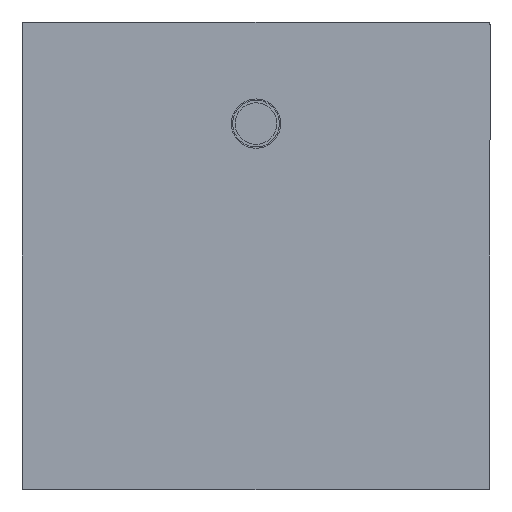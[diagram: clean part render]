
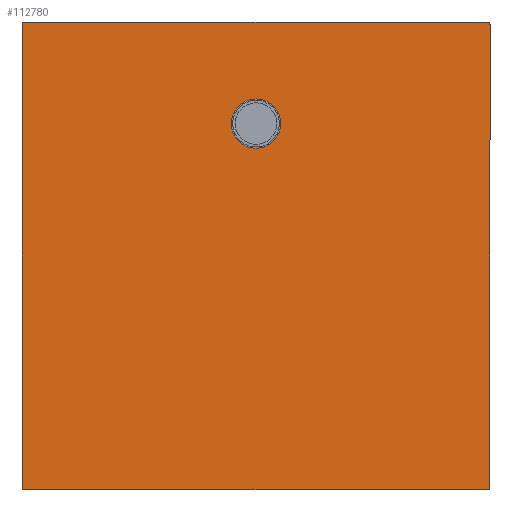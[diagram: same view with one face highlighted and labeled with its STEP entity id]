
A CAD part, front view. The second image highlights one B-rep face of the part: STEP entity #112780.
In plain terms, the highlighted planar face has unit normal (0, -1, 0).
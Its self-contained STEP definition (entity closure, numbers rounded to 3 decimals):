
#1012 = CARTESIAN_POINT ( 'NONE',  ( -450.698, -40., 195. ) ) ;
#1080 = ORIENTED_EDGE ( 'NONE', *, *, #11286, .F. ) ;
#3288 = CARTESIAN_POINT ( 'NONE',  ( 445.699, -40., -705.698 ) ) ;
#11040 = LINE ( 'NONE', #146233, #26169 ) ;
#11286 = EDGE_CURVE ( 'NONE', #176914, #33198, #155199, .T. ) ;
#12316 = CARTESIAN_POINT ( 'NONE',  ( -445.699, -40., 195.698 ) ) ;
#12525 = ORIENTED_EDGE ( 'NONE', *, *, #23596, .F. ) ;
#13889 = CARTESIAN_POINT ( 'NONE',  ( -448.628, -40., 195.698 ) ) ;
#14643 = CARTESIAN_POINT ( 'NONE',  ( -445.699, -40., -705.698 ) ) ;
#15200 = EDGE_LOOP ( 'NONE', ( #1080, #173535, #12525, #26302, #70656, #127754, #112002, #117499 ) ) ;
#16607 = CARTESIAN_POINT ( 'NONE',  ( -445.699, -40., 195.698 ) ) ;
#16988 = CARTESIAN_POINT ( 'NONE',  ( -445.699, -40., -705.698 ) ) ;
#19060 = DIRECTION ( 'NONE',  ( 1., 0., 0. ) ) ;
#21986 = DIRECTION ( 'NONE',  ( -1., 0., 0. ) ) ;
#22167 = DIRECTION ( 'NONE',  ( 0., 1., 0. ) ) ;
#23596 = EDGE_CURVE ( 'NONE', #109248, #108518, #11040, .T. ) ;
#24368 = EDGE_CURVE ( 'NONE', #35044, #35044, #162388, .T. ) ;
#26169 = VECTOR ( 'NONE', #21986, 1000. ) ;
#26302 = ORIENTED_EDGE ( 'NONE', *, *, #81879, .F. ) ;
#28629 = CARTESIAN_POINT ( 'NONE',  ( -450.698, -40., -700.699 ) ) ;
#28822 =( BOUNDED_CURVE ( )  B_SPLINE_CURVE ( 3, ( #31495, #138525, #99475, #16988 ),
 .UNSPECIFIED., .F., .T. ) 
 B_SPLINE_CURVE_WITH_KNOTS ( ( 4, 4 ),
 ( 2.356, 3.927 ),
 .UNSPECIFIED. ) 
 CURVE ( )  GEOMETRIC_REPRESENTATION_ITEM ( )  RATIONAL_B_SPLINE_CURVE ( ( 1., 0.805, 0.805, 1. ) ) 
 REPRESENTATION_ITEM ( '' )  );
#31495 = CARTESIAN_POINT ( 'NONE',  ( -450.698, -40., -700.699 ) ) ;
#33198 = VERTEX_POINT ( 'NONE', #175120 ) ;
#34095 =( BOUNDED_CURVE ( )  B_SPLINE_CURVE ( 3, ( #37797, #119409, #105794, #107566 ),
 .UNSPECIFIED., .F., .F. ) 
 B_SPLINE_CURVE_WITH_KNOTS ( ( 4, 4 ),
 ( 2.356, 3.927 ),
 .UNSPECIFIED. ) 
 CURVE ( )  GEOMETRIC_REPRESENTATION_ITEM ( )  RATIONAL_B_SPLINE_CURVE ( ( 1., 0.805, 0.805, 1. ) ) 
 REPRESENTATION_ITEM ( '' )  );
#35044 = VERTEX_POINT ( 'NONE', #105719 ) ;
#36131 = PLANE ( 'NONE',  #166199 ) ;
#37797 = CARTESIAN_POINT ( 'NONE',  ( 445.699, -40., 195.698 ) ) ;
#44487 = CARTESIAN_POINT ( 'NONE',  ( -450., -40., 195.698 ) ) ;
#45521 = VERTEX_POINT ( 'NONE', #159063 ) ;
#54076 = LINE ( 'NONE', #149326, #150953 ) ;
#58318 = CARTESIAN_POINT ( 'NONE',  ( -450.698, -40., 193.628 ) ) ;
#63000 = CARTESIAN_POINT ( 'NONE',  ( 450.698, -40., -700.699 ) ) ;
#66204 = EDGE_LOOP ( 'NONE', ( #141250 ) ) ;
#66872 = DIRECTION ( 'NONE',  ( 0., 1., 0. ) ) ;
#68334 = CARTESIAN_POINT ( 'NONE',  ( 448.628, -40., -705.698 ) ) ;
#70656 = ORIENTED_EDGE ( 'NONE', *, *, #95020, .T. ) ;
#74725 = VECTOR ( 'NONE', #19060, 1000. ) ;
#77502 = DIRECTION ( 'NONE',  ( 0., 0., 1. ) ) ;
#77850 = DIRECTION ( 'NONE',  ( 0., 0., 1. ) ) ;
#81879 = EDGE_CURVE ( 'NONE', #98362, #109248, #144271, .T. ) ;
#83054 = DIRECTION ( 'NONE',  ( 0., 0., 1. ) ) ;
#84468 = DIRECTION ( 'NONE',  ( 0., 0., 1. ) ) ;
#90559 = EDGE_CURVE ( 'NONE', #45521, #104293, #34095, .T. ) ;
#94064 = FACE_OUTER_BOUND ( 'NONE', #15200, .T. ) ;
#95000 = EDGE_CURVE ( 'NONE', #117533, #33198, #114034, .T. ) ;
#95020 = EDGE_CURVE ( 'NONE', #98362, #104293, #54076, .T. ) ;
#98362 = VERTEX_POINT ( 'NONE', #63000 ) ;
#99475 = CARTESIAN_POINT ( 'NONE',  ( -448.628, -40., -705.698 ) ) ;
#104293 = VERTEX_POINT ( 'NONE', #166670 ) ;
#105719 = CARTESIAN_POINT ( 'NONE',  ( 0., -40., 47.5 ) ) ;
#105794 = CARTESIAN_POINT ( 'NONE',  ( 450.698, -40., 193.628 ) ) ;
#107566 = CARTESIAN_POINT ( 'NONE',  ( 450.698, -40., 190.699 ) ) ;
#107671 = CARTESIAN_POINT ( 'NONE',  ( -450., -40., 195. ) ) ;
#108518 = VERTEX_POINT ( 'NONE', #14643 ) ;
#109126 = CARTESIAN_POINT ( 'NONE',  ( 450.698, -40., -703.628 ) ) ;
#109248 = VERTEX_POINT ( 'NONE', #3288 ) ;
#112002 = ORIENTED_EDGE ( 'NONE', *, *, #169771, .F. ) ;
#112780 = ADVANCED_FACE ( 'NONE', ( #119512, #94064 ), #36131, .F. ) ;
#114034 =( BOUNDED_CURVE ( )  B_SPLINE_CURVE ( 3, ( #16607, #13889, #58318, #125413 ),
 .UNSPECIFIED., .F., .T. ) 
 B_SPLINE_CURVE_WITH_KNOTS ( ( 4, 4 ),
 ( 2.356, 3.927 ),
 .UNSPECIFIED. ) 
 CURVE ( )  GEOMETRIC_REPRESENTATION_ITEM ( )  RATIONAL_B_SPLINE_CURVE ( ( 1., 0.805, 0.805, 1. ) ) 
 REPRESENTATION_ITEM ( '' )  );
#117499 = ORIENTED_EDGE ( 'NONE', *, *, #95000, .T. ) ;
#117533 = VERTEX_POINT ( 'NONE', #12316 ) ;
#119409 = CARTESIAN_POINT ( 'NONE',  ( 448.628, -40., 195.698 ) ) ;
#119512 = FACE_BOUND ( 'NONE', #66204, .T. ) ;
#120050 = CARTESIAN_POINT ( 'NONE',  ( 0., -40., 0. ) ) ;
#125413 = CARTESIAN_POINT ( 'NONE',  ( -450.698, -40., 190.699 ) ) ;
#127754 = ORIENTED_EDGE ( 'NONE', *, *, #90559, .F. ) ;
#138525 = CARTESIAN_POINT ( 'NONE',  ( -450.698, -40., -703.628 ) ) ;
#141250 = ORIENTED_EDGE ( 'NONE', *, *, #24368, .T. ) ;
#144271 =( BOUNDED_CURVE ( )  B_SPLINE_CURVE ( 3, ( #178089, #109126, #68334, #178964 ),
 .UNSPECIFIED., .F., .T. ) 
 B_SPLINE_CURVE_WITH_KNOTS ( ( 4, 4 ),
 ( 2.356, 3.927 ),
 .UNSPECIFIED. ) 
 CURVE ( )  GEOMETRIC_REPRESENTATION_ITEM ( )  RATIONAL_B_SPLINE_CURVE ( ( 1., 0.805, 0.805, 1. ) ) 
 REPRESENTATION_ITEM ( '' )  );
#144783 = VECTOR ( 'NONE', #84468, 1000. ) ;
#146233 = CARTESIAN_POINT ( 'NONE',  ( -450., -40., -705.698 ) ) ;
#149326 = CARTESIAN_POINT ( 'NONE',  ( 450.698, -40., 195. ) ) ;
#150953 = VECTOR ( 'NONE', #83054, 1000. ) ;
#155128 = LINE ( 'NONE', #44487, #74725 ) ;
#155199 = LINE ( 'NONE', #1012, #144783 ) ;
#159063 = CARTESIAN_POINT ( 'NONE',  ( 445.699, -40., 195.698 ) ) ;
#162256 = AXIS2_PLACEMENT_3D ( 'NONE', #120050, #22167, #77502 ) ;
#162388 = CIRCLE ( 'NONE', #162256, 47.5 ) ;
#163856 = EDGE_CURVE ( 'NONE', #176914, #108518, #28822, .T. ) ;
#166199 = AXIS2_PLACEMENT_3D ( 'NONE', #107671, #66872, #77850 ) ;
#166670 = CARTESIAN_POINT ( 'NONE',  ( 450.698, -40., 190.699 ) ) ;
#169771 = EDGE_CURVE ( 'NONE', #117533, #45521, #155128, .T. ) ;
#173535 = ORIENTED_EDGE ( 'NONE', *, *, #163856, .T. ) ;
#175120 = CARTESIAN_POINT ( 'NONE',  ( -450.698, -40., 190.699 ) ) ;
#176914 = VERTEX_POINT ( 'NONE', #28629 ) ;
#178089 = CARTESIAN_POINT ( 'NONE',  ( 450.698, -40., -700.699 ) ) ;
#178964 = CARTESIAN_POINT ( 'NONE',  ( 445.699, -40., -705.698 ) ) ;
